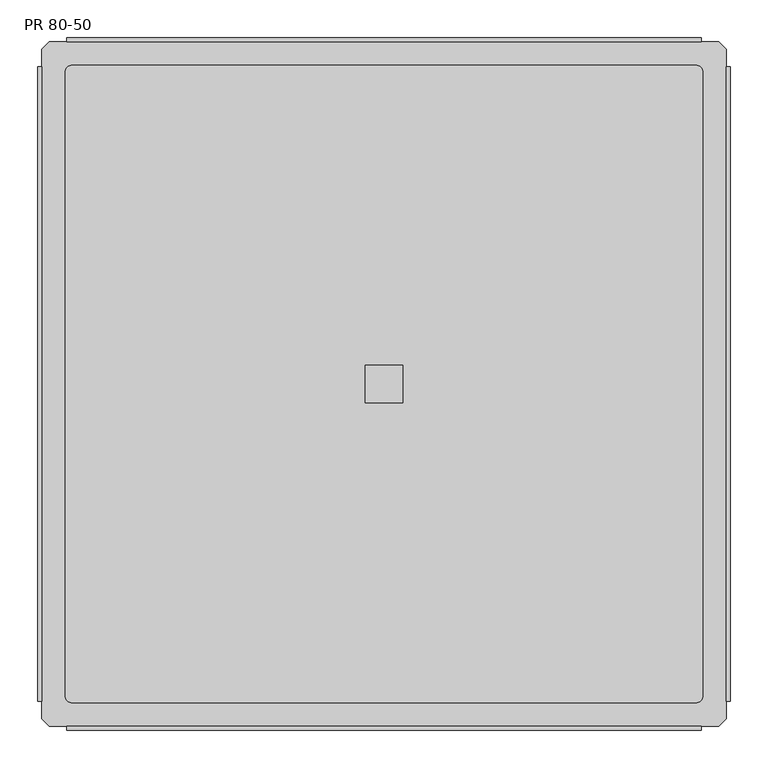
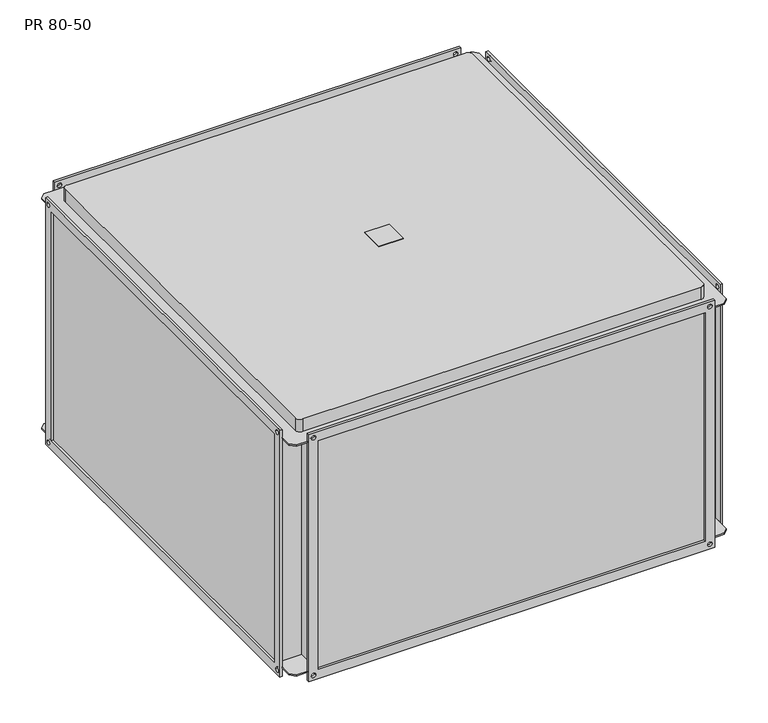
"""IFC4 building model written with IfcOpenShell, lengths in millimetres: proxy geometry, KORF_Рекуператор_Пластинчатый_PR : PR 80-50."""

from ifc_helpers import new_model, si_unit, point, frame, frame_2d, origin, place, context, project, spatial, polyline, circle_curve, trimmed, segment, composite_curve, outline, extrude, source, transform, mapped, element, save
from ifc_brep_helpers import plane_surface, cylinder_surface, revolved_surface, advanced_brep


def pr_80_50_171bdde4(model_context):
    return source(origin(), model_context, "Body", "SolidModel", [
        extrude(outline(polyline([(433.0, -25.0), (433.0, 25.0), (483.0, 25.0), (483.0, -25.0), (433.0, -25.0)])), frame((0.0, 0.0, 280.0), z_axis=(0.0, 0.0, 1.0), x_axis=(1.0, 0.0, 0.0)), (0.0, 0.0, 1.0), 2.0),
        advanced_brep(
        [(858.0, -453.0, -250.0), (858.0, -453.0, 250.0), (58.0, -453.0, 250.0), (58.0, -453.0, -250.0), (858.0, 453.0, 250.0), (858.0, 453.0, -250.0), (58.0, 453.0, -250.0), (58.0, 453.0, 250.0), (15.0, 453.0, 253.0), (5.0, 443.0, 253.0), (5.0, -443.0, 253.0), (15.0, -453.0, 253.0), (38.0, -453.0, 253.0), (878.0, -453.0, 253.0), (901.0, -453.0, 253.0), (911.0, -443.0, 253.0), (911.0, 443.0, 253.0), (901.0, 453.0, 253.0), (878.0, 453.0, 253.0), (38.0, 453.0, 253.0), (46.0, 422.0, 253.0), (870.0, 422.0, 253.0), (880.0, 412.0, 253.0), (880.0, -412.0, 253.0), (870.0, -422.0, 253.0), (46.0, -422.0, 253.0), (36.0, -412.0, 253.0), (36.0, 412.0, 253.0), (55.0, -453.0, 250.0), (55.0, -403.0, 250.0), (55.0, -403.0, -250.0), (55.0, -453.0, -250.0), (55.0, 403.0, 250.0), (55.0, 453.0, 250.0), (55.0, 453.0, -250.0), (55.0, 403.0, -250.0), (5.0, 443.0, -253.0), (15.0, 453.0, -253.0), (38.0, 453.0, -253.0), (878.0, 453.0, -253.0), (901.0, 453.0, -253.0), (911.0, 443.0, -253.0), (911.0, -443.0, -253.0), (901.0, -453.0, -253.0), (878.0, -453.0, -253.0), (38.0, -453.0, -253.0), (15.0, -453.0, -253.0), (5.0, -443.0, -253.0), (861.0, -403.0, 250.0), (861.0, -453.0, 250.0), (861.0, -453.0, -250.0), (861.0, -403.0, -250.0), (861.0, 453.0, 250.0), (861.0, 403.0, 250.0), (861.0, 403.0, -250.0), (861.0, 453.0, -250.0), (911.0, 403.0, 250.0), (911.0, 443.0, 250.0), (911.0, -443.0, 250.0), (911.0, -403.0, 250.0), (911.0, -403.0, -250.0), (911.0, -443.0, -250.0), (911.0, 443.0, -250.0), (911.0, 403.0, -250.0), (5.0, 443.0, 250.0), (5.0, 403.0, 250.0), (5.0, 403.0, -250.0), (5.0, 443.0, -250.0), (5.0, -443.0, -250.0), (5.0, -403.0, -250.0), (5.0, -403.0, 250.0), (5.0, -443.0, 250.0), (878.0, 458.0, 270.0), (878.0, 458.0, -270.0), (38.0, 458.0, -270.0), (38.0, 458.0, 270.0), (858.0, 458.0, 250.0), (58.0, 458.0, 250.0), (58.0, 458.0, -250.0), (858.0, 458.0, -250.0), (43.5, 458.0, 260.0), (52.5, 458.0, 260.0), (863.5, 458.0, 260.0), (872.5, 458.0, 260.0), (863.5, 458.0, -260.0), (872.5, 458.0, -260.0), (43.5, 458.0, -260.0), (52.5, 458.0, -260.0), (878.0, 453.0, 270.0), (38.0, 453.0, 270.0), (43.5, 453.0, 260.0), (52.5, 453.0, 260.0), (863.5, 453.0, 260.0), (872.5, 453.0, 260.0), (38.0, 453.0, -270.0), (878.0, 453.0, -270.0), (863.5, 453.0, -260.0), (872.5, 453.0, -260.0), (43.5, 453.0, -260.0), (52.5, 453.0, -260.0), (38.0, 453.0, 250.0), (38.0, 453.0, -250.0), (878.0, 453.0, 250.0), (878.0, 453.0, -250.0), (878.0, -458.0, 270.0), (38.0, -458.0, 270.0), (38.0, -458.0, -270.0), (878.0, -458.0, -270.0), (858.0, -458.0, 250.0), (858.0, -458.0, -250.0), (58.0, -458.0, -250.0), (58.0, -458.0, 250.0), (863.5, -458.0, 260.0), (872.5, -458.0, 260.0), (863.5, -458.0, -260.0), (872.5, -458.0, -260.0), (43.5, -458.0, 260.0), (52.5, -458.0, 260.0), (43.5, -458.0, -260.0), (52.5, -458.0, -260.0), (878.0, -453.0, -270.0), (38.0, -453.0, -270.0), (863.5, -453.0, -260.0), (872.5, -453.0, -260.0), (43.5, -453.0, -260.0), (52.5, -453.0, -260.0), (38.0, -453.0, 270.0), (878.0, -453.0, 270.0), (863.5, -453.0, 260.0), (872.5, -453.0, 260.0), (43.5, -453.0, 260.0), (52.5, -453.0, 260.0), (38.0, -453.0, 250.0), (38.0, -453.0, -250.0), (878.0, -453.0, 250.0), (878.0, -453.0, -250.0), (901.0, -453.0, 250.0), (15.0, 453.0, 250.0), (901.0, 453.0, 250.0), (15.0, -453.0, 250.0), (901.0, 453.0, -250.0), (15.0, -453.0, -250.0), (15.0, 453.0, -250.0), (901.0, -453.0, -250.0), (870.0, 422.0, 280.0), (46.0, 422.0, 280.0), (36.0, 412.0, 280.0), (36.0, -412.0, 280.0), (46.0, -422.0, 280.0), (870.0, -422.0, 280.0), (880.0, -412.0, 280.0), (880.0, 412.0, 280.0)],
        [
            (0, 1),
            (1, 2),
            (2, 3),
            (3, 0),
            (4, 5),
            (5, 6),
            (6, 7),
            (7, 4),
            (8, 9),
            (9, 10),
            (10, 11),
            (11, 12),
            (12, 13),
            (13, 14),
            (14, 15),
            (15, 16),
            (16, 17),
            (17, 18),
            (18, 19),
            (19, 8),
            (20, 21),
            (21, 22, circle_curve(frame((870.0, 412.0, 253.0), z_axis=(0.0, 0.0, -1.0), x_axis=(1.0, 0.0, 0.0)), 10.0)),
            (22, 23),
            (23, 24, circle_curve(frame((870.0, -412.0, 253.0), z_axis=(0.0, 0.0, -1.0), x_axis=(1.0, 0.0, 0.0)), 10.0)),
            (24, 25),
            (25, 26, circle_curve(frame((46.0, -412.0, 253.0), z_axis=(0.0, 0.0, -1.0), x_axis=(1.0, 0.0, 0.0)), 10.0)),
            (26, 27),
            (27, 20, circle_curve(frame((46.0, 412.0, 253.0), z_axis=(0.0, 0.0, -1.0), x_axis=(1.0, 0.0, 0.0)), 10.0)),
            (28, 29),
            (29, 30),
            (30, 31),
            (31, 28),
            (32, 33),
            (33, 34),
            (34, 35),
            (35, 32),
            (36, 37),
            (37, 38),
            (38, 39),
            (39, 40),
            (40, 41),
            (41, 42),
            (42, 43),
            (43, 44),
            (44, 45),
            (45, 46),
            (46, 47),
            (47, 36),
            (48, 49),
            (49, 50),
            (50, 51),
            (51, 48),
            (52, 53),
            (53, 54),
            (54, 55),
            (55, 52),
            (56, 57),
            (57, 16),
            (15, 58),
            (58, 59),
            (59, 60),
            (60, 61),
            (61, 42),
            (41, 62),
            (62, 63),
            (63, 56),
            (64, 65),
            (65, 66),
            (66, 67),
            (67, 36),
            (47, 68),
            (68, 69),
            (69, 70),
            (70, 71),
            (71, 10),
            (9, 64),
            (29, 70),
            (69, 30),
            (59, 48),
            (51, 60),
            (65, 32),
            (35, 66),
            (53, 56),
            (63, 54),
            (72, 73),
            (73, 74),
            (74, 75),
            (75, 72),
            (76, 77),
            (77, 78),
            (78, 79),
            (79, 76),
            (80, 81, circle_curve(frame((48.0, 458.0, 260.0), z_axis=(0.0, -1.0, 0.0), x_axis=(1.0, 0.0, 0.0)), 4.5)),
            (81, 80, circle_curve(frame((48.0, 458.0, 260.0), z_axis=(0.0, -1.0, 0.0), x_axis=(1.0, 0.0, 0.0)), 4.5)),
            (82, 83, circle_curve(frame((868.0, 458.0, 260.0), z_axis=(0.0, -1.0, 0.0), x_axis=(1.0, 0.0, 0.0)), 4.5)),
            (83, 82, circle_curve(frame((868.0, 458.0, 260.0), z_axis=(0.0, -1.0, 0.0), x_axis=(1.0, 0.0, 0.0)), 4.5)),
            (84, 85, circle_curve(frame((868.0, 458.0, -260.0), z_axis=(0.0, -1.0, 0.0), x_axis=(1.0, 0.0, 0.0)), 4.5)),
            (85, 84, circle_curve(frame((868.0, 458.0, -260.0), z_axis=(0.0, -1.0, 0.0), x_axis=(1.0, 0.0, 0.0)), 4.5)),
            (86, 87, circle_curve(frame((48.0, 458.0, -260.0), z_axis=(0.0, -1.0, 0.0), x_axis=(1.0, 0.0, 0.0)), 4.5)),
            (87, 86, circle_curve(frame((48.0, 458.0, -260.0), z_axis=(0.0, -1.0, 0.0), x_axis=(1.0, 0.0, 0.0)), 4.5)),
            (88, 89),
            (89, 19),
            (18, 88),
            (90, 91, circle_curve(frame((48.0, 453.0, 260.0), z_axis=(0.0, 1.0, 0.0), x_axis=(1.0, 0.0, 0.0)), 4.5)),
            (91, 90, circle_curve(frame((48.0, 453.0, 260.0), z_axis=(0.0, 1.0, 0.0), x_axis=(1.0, 0.0, 0.0)), 4.5)),
            (92, 93, circle_curve(frame((868.0, 453.0, 260.0), z_axis=(0.0, 1.0, 0.0), x_axis=(1.0, 0.0, 0.0)), 4.5)),
            (93, 92, circle_curve(frame((868.0, 453.0, 260.0), z_axis=(0.0, 1.0, 0.0), x_axis=(1.0, 0.0, 0.0)), 4.5)),
            (94, 95),
            (95, 39),
            (38, 94),
            (96, 97, circle_curve(frame((868.0, 453.0, -260.0), z_axis=(0.0, 1.0, 0.0), x_axis=(1.0, 0.0, 0.0)), 4.5)),
            (97, 96, circle_curve(frame((868.0, 453.0, -260.0), z_axis=(0.0, 1.0, 0.0), x_axis=(1.0, 0.0, 0.0)), 4.5)),
            (98, 99, circle_curve(frame((48.0, 453.0, -260.0), z_axis=(0.0, 1.0, 0.0), x_axis=(1.0, 0.0, 0.0)), 4.5)),
            (99, 98, circle_curve(frame((48.0, 453.0, -260.0), z_axis=(0.0, 1.0, 0.0), x_axis=(1.0, 0.0, 0.0)), 4.5)),
            (33, 100),
            (100, 101),
            (101, 34),
            (102, 52),
            (55, 103),
            (103, 102),
            (75, 89),
            (88, 72),
            (74, 94),
            (38, 101),
            (100, 19),
            (73, 95),
            (18, 102),
            (103, 39),
            (79, 5),
            (4, 76),
            (78, 6),
            (77, 7),
            (104, 105),
            (105, 106),
            (106, 107),
            (107, 104),
            (108, 109),
            (109, 110),
            (110, 111),
            (111, 108),
            (112, 113, circle_curve(frame((868.0, -458.0, 260.0), z_axis=(0.0, 1.0, 0.0), x_axis=(1.0, 0.0, 0.0)), 4.5)),
            (113, 112, circle_curve(frame((868.0, -458.0, 260.0), z_axis=(0.0, 1.0, 0.0), x_axis=(1.0, 0.0, 0.0)), 4.5)),
            (114, 115, circle_curve(frame((868.0, -458.0, -260.0), z_axis=(0.0, 1.0, 0.0), x_axis=(1.0, 0.0, 0.0)), 4.5)),
            (115, 114, circle_curve(frame((868.0, -458.0, -260.0), z_axis=(0.0, 1.0, 0.0), x_axis=(1.0, 0.0, 0.0)), 4.5)),
            (116, 117, circle_curve(frame((48.0, -458.0, 260.0), z_axis=(0.0, 1.0, 0.0), x_axis=(1.0, 0.0, 0.0)), 4.5)),
            (117, 116, circle_curve(frame((48.0, -458.0, 260.0), z_axis=(0.0, 1.0, 0.0), x_axis=(1.0, 0.0, 0.0)), 4.5)),
            (118, 119, circle_curve(frame((48.0, -458.0, -260.0), z_axis=(0.0, 1.0, 0.0), x_axis=(1.0, 0.0, 0.0)), 4.5)),
            (119, 118, circle_curve(frame((48.0, -458.0, -260.0), z_axis=(0.0, 1.0, 0.0), x_axis=(1.0, 0.0, 0.0)), 4.5)),
            (120, 121),
            (121, 45),
            (44, 120),
            (122, 123, circle_curve(frame((868.0, -453.0, -260.0), z_axis=(0.0, -1.0, 0.0), x_axis=(1.0, 0.0, 0.0)), 4.5)),
            (123, 122, circle_curve(frame((868.0, -453.0, -260.0), z_axis=(0.0, -1.0, 0.0), x_axis=(1.0, 0.0, 0.0)), 4.5)),
            (124, 125, circle_curve(frame((48.0, -453.0, -260.0), z_axis=(0.0, -1.0, 0.0), x_axis=(1.0, 0.0, 0.0)), 4.5)),
            (125, 124, circle_curve(frame((48.0, -453.0, -260.0), z_axis=(0.0, -1.0, 0.0), x_axis=(1.0, 0.0, 0.0)), 4.5)),
            (126, 127),
            (127, 13),
            (12, 126),
            (128, 129, circle_curve(frame((868.0, -453.0, 260.0), z_axis=(0.0, -1.0, 0.0), x_axis=(1.0, 0.0, 0.0)), 4.5)),
            (129, 128, circle_curve(frame((868.0, -453.0, 260.0), z_axis=(0.0, -1.0, 0.0), x_axis=(1.0, 0.0, 0.0)), 4.5)),
            (130, 131, circle_curve(frame((48.0, -453.0, 260.0), z_axis=(0.0, -1.0, 0.0), x_axis=(1.0, 0.0, 0.0)), 4.5)),
            (131, 130, circle_curve(frame((48.0, -453.0, 260.0), z_axis=(0.0, -1.0, 0.0), x_axis=(1.0, 0.0, 0.0)), 4.5)),
            (132, 28),
            (31, 133),
            (133, 132),
            (49, 134),
            (134, 135),
            (135, 50),
            (104, 127),
            (126, 105),
            (12, 132),
            (133, 45),
            (121, 106),
            (120, 107),
            (44, 135),
            (134, 13),
            (108, 1),
            (0, 109),
            (3, 110),
            (2, 111),
            (81, 91),
            (90, 80),
            (83, 93),
            (92, 82),
            (85, 97),
            (96, 84),
            (87, 99),
            (98, 86),
            (112, 128),
            (129, 113),
            (114, 122),
            (123, 115),
            (116, 130),
            (131, 117),
            (118, 124),
            (125, 119),
            (58, 136),
            (136, 134),
            (64, 137),
            (137, 100),
            (138, 57),
            (102, 138),
            (139, 71),
            (132, 139),
            (137, 8),
            (138, 17),
            (139, 11),
            (136, 14),
            (62, 140),
            (140, 103),
            (68, 141),
            (141, 133),
            (142, 67),
            (101, 142),
            (143, 61),
            (135, 143),
            (37, 142),
            (40, 140),
            (46, 141),
            (43, 143),
            (144, 145),
            (145, 146, circle_curve(frame((46.0, 412.0, 280.0), z_axis=(0.0, 0.0, 1.0), x_axis=(1.0, 0.0, 0.0)), 10.0)),
            (146, 147),
            (147, 148, circle_curve(frame((46.0, -412.0, 280.0), z_axis=(0.0, 0.0, 1.0), x_axis=(1.0, 0.0, 0.0)), 10.0)),
            (148, 149),
            (149, 150, circle_curve(frame((870.0, -412.0, 280.0), z_axis=(0.0, 0.0, 1.0), x_axis=(1.0, 0.0, 0.0)), 10.0)),
            (150, 151),
            (151, 144, circle_curve(frame((870.0, 412.0, 280.0), z_axis=(0.0, 0.0, 1.0), x_axis=(1.0, 0.0, 0.0)), 10.0)),
            (144, 21),
            (20, 145),
            (27, 146),
            (26, 147),
            (25, 148),
            (24, 149),
            (23, 150),
            (22, 151),
        ],
        [
            plane_surface(frame((55.0, -453.0, 253.0), z_axis=(0.0, -1.0, 0.0), x_axis=(-1.0, 0.0, 0.0))),
            plane_surface(frame((55.0, 453.0, 253.0), z_axis=(0.0, 1.0, 0.0), x_axis=(1.0, 0.0, 0.0))),
            plane_surface(frame((861.0, -453.0, 253.0), z_axis=(0.0, 0.0, 1.0), x_axis=(0.0, 1.0, 0.0))),
            plane_surface(frame((55.0, -453.0, 253.0), z_axis=(-1.0, 0.0, 0.0), x_axis=(0.0, 1.0, 0.0))),
            plane_surface(frame((55.0, -453.0, -253.0), z_axis=(0.0, 0.0, -1.0), x_axis=(0.0, 1.0, 0.0))),
            plane_surface(frame((861.0, -453.0, -253.0), z_axis=(1.0, 0.0, 0.0), x_axis=(0.0, 1.0, 0.0))),
            plane_surface(frame((911.0, -403.0, 253.0), z_axis=(1.0, 0.0, 0.0), x_axis=(0.0, 0.0, -1.0))),
            plane_surface(frame((5.0, -403.0, 253.0), z_axis=(-1.0, 0.0, 0.0), x_axis=(0.0, 0.0, 1.0))),
            plane_surface(frame((911.0, -403.0, 253.0), z_axis=(0.0, -1.0, 0.0), x_axis=(-1.0, 0.0, 0.0))),
            plane_surface(frame((911.0, 403.0, -253.0), z_axis=(0.0, 1.0, 0.0), x_axis=(-1.0, 0.0, 0.0))),
            plane_surface(frame((38.0, 458.0, 270.0), z_axis=(0.0, 1.0, 0.0), x_axis=(1.0, 0.0, 0.0))),
            plane_surface(frame((38.0, 453.0, 270.0), z_axis=(0.0, -1.0, 0.0), x_axis=(-1.0, 0.0, 0.0))),
            plane_surface(frame((878.0, 453.0, 270.0), z_axis=(0.0, 0.0, 1.0), x_axis=(0.0, 1.0, 0.0))),
            plane_surface(frame((38.0, 453.0, 270.0), z_axis=(-1.0, 0.0, 0.0), x_axis=(0.0, 1.0, 0.0))),
            plane_surface(frame((38.0, 453.0, -270.0), z_axis=(0.0, 0.0, -1.0), x_axis=(0.0, 1.0, 0.0))),
            plane_surface(frame((878.0, 453.0, -270.0), z_axis=(1.0, 0.0, 0.0), x_axis=(0.0, 1.0, 0.0))),
            plane_surface(frame((858.0, 453.0, 250.0), z_axis=(-1.0, 0.0, 0.0), x_axis=(0.0, 1.0, 0.0))),
            plane_surface(frame((858.0, 453.0, -250.0), z_axis=(0.0, 0.0, 1.0), x_axis=(0.0, 1.0, 0.0))),
            plane_surface(frame((58.0, 453.0, -250.0), z_axis=(1.0, 0.0, 0.0), x_axis=(0.0, 1.0, 0.0))),
            plane_surface(frame((58.0, 453.0, 250.0), z_axis=(0.0, 0.0, -1.0), x_axis=(0.0, 1.0, 0.0))),
            plane_surface(frame((38.0, -458.0, 270.0), z_axis=(0.0, -1.0, 0.0), x_axis=(-1.0, 0.0, 0.0))),
            plane_surface(frame((38.0, -453.0, 270.0), z_axis=(0.0, 1.0, 0.0), x_axis=(1.0, 0.0, 0.0))),
            plane_surface(frame((878.0, -458.0, 270.0), z_axis=(0.0, 0.0, 1.0), x_axis=(0.0, 1.0, 0.0))),
            plane_surface(frame((38.0, -458.0, 270.0), z_axis=(-1.0, 0.0, 0.0), x_axis=(0.0, 1.0, 0.0))),
            plane_surface(frame((38.0, -458.0, -270.0), z_axis=(0.0, 0.0, -1.0), x_axis=(0.0, 1.0, 0.0))),
            plane_surface(frame((878.0, -458.0, -270.0), z_axis=(1.0, 0.0, 0.0), x_axis=(0.0, 1.0, 0.0))),
            plane_surface(frame((858.0, -458.0, 250.0), z_axis=(-1.0, 0.0, 0.0), x_axis=(0.0, 1.0, 0.0))),
            plane_surface(frame((858.0, -458.0, -250.0), z_axis=(0.0, 0.0, 1.0), x_axis=(0.0, 1.0, 0.0))),
            plane_surface(frame((58.0, -458.0, -250.0), z_axis=(1.0, 0.0, 0.0), x_axis=(0.0, 1.0, 0.0))),
            plane_surface(frame((58.0, -458.0, 250.0), z_axis=(0.0, 0.0, -1.0), x_axis=(0.0, 1.0, 0.0))),
            revolved_surface(polyline([(52.5, 458.0, 260.0), (52.5, 453.0, 260.0)]), (48.0, 0.0, 260.0), (0.0, 1.0, 0.0)),
            revolved_surface(polyline([(872.5, 458.0, 260.0), (872.5, 453.0, 260.0)]), (868.0, 0.0, 260.0), (0.0, 1.0, 0.0)),
            revolved_surface(polyline([(872.5, 458.0, -260.0), (872.5, 453.0, -260.0)]), (868.0, 0.0, -260.0), (0.0, 1.0, 0.0)),
            revolved_surface(polyline([(52.5, 458.0, -260.0), (52.5, 453.0, -260.0)]), (48.0, 0.0, -260.0), (0.0, 1.0, 0.0)),
            revolved_surface(polyline([(872.5, -453.0, 260.0), (872.5, -458.0, 260.0)]), (868.0, 0.0, 260.0), (0.0, 1.0, 0.0)),
            revolved_surface(polyline([(872.5, -453.0, -260.0), (872.5, -458.0, -260.0)]), (868.0, 0.0, -260.0), (0.0, 1.0, 0.0)),
            revolved_surface(polyline([(52.5, -453.0, 260.0), (52.5, -458.0, 260.0)]), (48.0, 0.0, 260.0), (0.0, 1.0, 0.0)),
            revolved_surface(polyline([(52.5, -453.0, -260.0), (52.5, -458.0, -260.0)]), (48.0, 0.0, -260.0), (0.0, 1.0, 0.0)),
            plane_surface(frame((55.0, 403.0, 250.0), z_axis=(0.0, 0.0, -1.0), x_axis=(0.0, -1.0, 0.0))),
            plane_surface(frame((55.0, 453.0, 253.0), z_axis=(0.0, 1.0, 0.0), x_axis=(0.0, 0.0, -1.0))),
            plane_surface(frame((15.0, 453.0, 253.0), z_axis=(-0.707106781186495, 0.7071067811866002, 0.0), x_axis=(0.0, 0.0, -1.0))),
            plane_surface(frame((911.0, 443.0, 253.0), z_axis=(0.7071067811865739, 0.7071067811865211, 0.0), x_axis=(0.0, 0.0, -1.0))),
            plane_surface(frame((901.0, 453.0, 253.0), z_axis=(0.0, 1.0, 0.0), x_axis=(0.0, 0.0, -1.0))),
            plane_surface(frame((5.0, -443.0, 253.0), z_axis=(-0.7071067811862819, -0.7071067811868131, 0.0), x_axis=(0.0, 0.0, -1.0))),
            plane_surface(frame((15.0, -453.0, 253.0), z_axis=(0.0, -1.0, 0.0), x_axis=(0.0, 0.0, -1.0))),
            plane_surface(frame((861.0, -453.0, 253.0), z_axis=(0.0, -1.0, 0.0), x_axis=(0.0, 0.0, -1.0))),
            plane_surface(frame((901.0, -453.0, 253.0), z_axis=(0.7071067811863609, -0.7071067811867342, 0.0), x_axis=(0.0, 0.0, -1.0))),
            plane_surface(frame((55.0, 403.0, -250.0), z_axis=(0.0, 0.0, 1.0), x_axis=(0.0, 1.0, 0.0))),
            plane_surface(frame((55.0, 453.0, -250.0), z_axis=(0.0, 1.0, 0.0), x_axis=(0.0, 0.0, -1.0))),
            plane_surface(frame((15.0, 453.0, -250.0), z_axis=(-0.7071067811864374, 0.7071067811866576, 0.0), x_axis=(0.0, 0.0, -1.0))),
            plane_surface(frame((911.0, 443.0, -250.0), z_axis=(0.7071067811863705, 0.7071067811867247, 0.0), x_axis=(0.0, 0.0, -1.0))),
            plane_surface(frame((901.0, 453.0, -250.0), z_axis=(0.0, 1.0, 0.0), x_axis=(0.0, 0.0, -1.0))),
            plane_surface(frame((5.0, -443.0, -250.0), z_axis=(-0.707106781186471, -0.7071067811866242, 0.0), x_axis=(0.0, 0.0, -1.0))),
            plane_surface(frame((15.0, -453.0, -250.0), z_axis=(0.0, -1.0, 0.0), x_axis=(0.0, 0.0, -1.0))),
            plane_surface(frame((861.0, -453.0, -250.0), z_axis=(0.0, -1.0, 0.0), x_axis=(0.0, 0.0, -1.0))),
            plane_surface(frame((901.0, -453.0, -250.0), z_axis=(0.7071067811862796, -0.7071067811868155, 0.0), x_axis=(0.0, 0.0, -1.0))),
            plane_surface(frame((46.0, 422.0, 280.0), z_axis=(0.0, 0.0, 1.0), x_axis=(-1.0, 0.0, 0.0))),
            plane_surface(frame((870.0, 422.0, 280.0), z_axis=(0.0, 1.0, 0.0), x_axis=(0.0, 0.0, -1.0))),
            cylinder_surface(frame((46.0, 412.0, 253.0), z_axis=(0.0, 0.0, 1.0), x_axis=(1.0, 0.0, 0.0)), 10.0),
            plane_surface(frame((36.0, 412.0, 280.0), z_axis=(-1.0, 0.0, 0.0), x_axis=(0.0, 0.0, -1.0))),
            cylinder_surface(frame((46.0, -412.0, 253.0), z_axis=(0.0, 0.0, 1.0), x_axis=(1.0, 0.0, 0.0)), 10.0),
            plane_surface(frame((46.0, -422.0, 280.0), z_axis=(0.0, -1.0, 0.0), x_axis=(0.0, 0.0, -1.0))),
            cylinder_surface(frame((870.0, -412.0, 253.0), z_axis=(0.0, 0.0, 1.0), x_axis=(1.0, 0.0, 0.0)), 10.0),
            plane_surface(frame((880.0, -412.0, 280.0), z_axis=(1.0, 0.0, 0.0), x_axis=(0.0, 0.0, -1.0))),
            cylinder_surface(frame((870.0, 412.0, 253.0), z_axis=(0.0, 0.0, 1.0), x_axis=(1.0, 0.0, 0.0)), 10.0),
        ],
        [
            (0, [[1, 2, 3, 4]]),
            (1, [[5, 6, 7, 8]]),
            (2, [[9, 10, 11, 12, 13, 14, 15, 16, 17, 18, 19, 20], [21, 22, 23, 24, 25, 26, 27, 28]]),
            (3, [[29, 30, 31, 32]]),
            (3, [[33, 34, 35, 36]]),
            (4, [[37, 38, 39, 40, 41, 42, 43, 44, 45, 46, 47, 48]]),
            (5, [[49, 50, 51, 52]]),
            (5, [[53, 54, 55, 56]]),
            (6, [[57, 58, -16, 59, 60, 61, 62, 63, -42, 64, 65, 66]]),
            (7, [[67, 68, 69, 70, -48, 71, 72, 73, 74, 75, -10, 76]]),
            (8, [[77, -73, 78, -30]]),
            (8, [[79, -52, 80, -61]]),
            (9, [[81, -36, 82, -68]]),
            (9, [[83, -66, 84, -54]]),
            (10, [[85, 86, 87, 88], [89, 90, 91, 92], [93, 94], [95, 96], [97, 98], [99, 100]]),
            (11, [[101, 102, -19, 103], [104, 105], [106, 107]]),
            (11, [[108, 109, -39, 110], [111, 112], [113, 114]]),
            (11, [[115, 116, 117, -34]]),
            (11, [[118, -56, 119, 120]]),
            (12, [[-88, 121, -101, 122]]),
            (13, [[-87, 123, -110, 124, -116, 125, -102, -121]]),
            (14, [[-86, 126, -108, -123]]),
            (15, [[-85, -122, -103, 127, -120, 128, -109, -126]]),
            (16, [[-92, 129, -5, 130]]),
            (17, [[-91, 131, -6, -129]]),
            (18, [[-90, 132, -7, -131]]),
            (19, [[-89, -130, -8, -132]]),
            (20, [[133, 134, 135, 136], [137, 138, 139, 140], [141, 142], [143, 144], [145, 146], [147, 148]]),
            (21, [[149, 150, -45, 151], [152, 153], [154, 155]]),
            (21, [[156, 157, -13, 158], [159, 160], [161, 162]]),
            (21, [[163, -32, 164, 165]]),
            (21, [[166, 167, 168, -50]]),
            (22, [[-133, 169, -156, 170]]),
            (23, [[-134, -170, -158, 171, -165, 172, -150, 173]]),
            (24, [[-135, -173, -149, 174]]),
            (25, [[-136, -174, -151, 175, -167, 176, -157, -169]]),
            (26, [[-137, 177, -1, 178]]),
            (27, [[-138, -178, -4, 179]]),
            (28, [[-139, -179, -3, 180]]),
            (29, [[-140, -180, -2, -177]]),
            (30, [[-94, 181, -104, 182]]),
            (30, [[-93, -182, -105, -181]]),
            (31, [[-96, 183, -106, 184]]),
            (31, [[-95, -184, -107, -183]]),
            (32, [[-98, 185, -111, 186]]),
            (32, [[-97, -186, -112, -185]]),
            (33, [[-100, 187, -113, 188]]),
            (33, [[-99, -188, -114, -187]]),
            (34, [[-141, 189, -160, 190]]),
            (34, [[-142, -190, -159, -189]]),
            (35, [[-143, 191, -153, 192]]),
            (35, [[-144, -192, -152, -191]]),
            (36, [[-145, 193, -162, 194]]),
            (36, [[-146, -194, -161, -193]]),
            (37, [[-147, 195, -155, 196]]),
            (37, [[-148, -196, -154, -195]]),
            (38, [[-60, 197, 198, -166, -49, -79]]),
            (38, [[-67, 199, 200, -115, -33, -81]]),
            (38, [[201, -57, -83, -53, -118, 202]]),
            (38, [[203, -74, -77, -29, -163, 204]]),
            (39, [[205, -20, -125, -200]]),
            (40, [[-199, -76, -9, -205]]),
            (41, [[-201, 206, -17, -58]]),
            (42, [[-206, -202, -127, -18]]),
            (43, [[-203, 207, -11, -75]]),
            (44, [[-207, -204, -171, -12]]),
            (45, [[208, -14, -176, -198]]),
            (46, [[-197, -59, -15, -208]]),
            (47, [[-65, 209, 210, -119, -55, -84]]),
            (47, [[-72, 211, 212, -164, -31, -78]]),
            (47, [[213, -69, -82, -35, -117, 214]]),
            (47, [[215, -62, -80, -51, -168, 216]]),
            (48, [[217, -214, -124, -38]]),
            (49, [[-213, -217, -37, -70]]),
            (50, [[-209, -64, -41, 218]]),
            (51, [[-218, -40, -128, -210]]),
            (52, [[-211, -71, -47, 219]]),
            (53, [[-219, -46, -172, -212]]),
            (54, [[220, -216, -175, -44]]),
            (55, [[-215, -220, -43, -63]]),
            (56, [[221, 222, 223, 224, 225, 226, 227, 228]]),
            (57, [[-221, 229, -21, 230]]),
            (58, [[-222, -230, -28, 231]]),
            (59, [[-223, -231, -27, 232]]),
            (60, [[-224, -232, -26, 233]]),
            (61, [[-225, -233, -25, 234]]),
            (62, [[-226, -234, -24, 235]]),
            (63, [[-227, -235, -23, 236]]),
            (64, [[-228, -236, -22, -229]]),
        ],
    ),
        extrude(outline(polyline([(-420.0, 270.0), (420.0, 270.0), (420.0, -270.0), (-420.0, -270.0), (-420.0, 270.0)]), holes=[polyline([(-400.0, 250.0), (-400.0, -250.0), (400.0, -250.0), (400.0, 250.0), (-400.0, 250.0)]), composite_curve([segment(trimmed(circle_curve(frame_2d((410.0, 260.0)), 4.5), [point((405.5, 260.0))], [point((414.5, 260.0))], True, "CARTESIAN"), True, "CONTINUOUS"), segment(trimmed(circle_curve(frame_2d((410.0, 260.0)), 4.5), [point((414.5, 260.0))], [point((405.5, 260.0))], True, "CARTESIAN"), True, "CONTINUOUS")], self_intersect=False), composite_curve([segment(trimmed(circle_curve(frame_2d((-410.0, 260.0)), 4.5), [point((-414.5, 260.0))], [point((-405.5, 260.0))], True, "CARTESIAN"), True, "CONTINUOUS"), segment(trimmed(circle_curve(frame_2d((-410.0, 260.0)), 4.5), [point((-405.5, 260.0))], [point((-414.5, 260.0))], True, "CARTESIAN"), True, "CONTINUOUS")], self_intersect=False), composite_curve([segment(trimmed(circle_curve(frame_2d((-410.0, -260.0)), 4.5), [point((-414.5, -260.0))], [point((-405.5, -260.0))], True, "CARTESIAN"), True, "CONTINUOUS"), segment(trimmed(circle_curve(frame_2d((-410.0, -260.0)), 4.5), [point((-405.5, -260.0))], [point((-414.5, -260.0))], True, "CARTESIAN"), True, "CONTINUOUS")], self_intersect=False), composite_curve([segment(trimmed(circle_curve(frame_2d((410.0, -260.0)), 4.5), [point((405.5, -260.0))], [point((414.5, -260.0))], True, "CARTESIAN"), True, "CONTINUOUS"), segment(trimmed(circle_curve(frame_2d((410.0, -260.0)), 4.5), [point((414.5, -260.0))], [point((405.5, -260.0))], True, "CARTESIAN"), True, "CONTINUOUS")], self_intersect=False)]), frame((911.0, 0.0, 0.0), z_axis=(1.0, 0.0, 0.0), x_axis=(0.0, 1.0, 0.0)), (0.0, 0.0, 1.0), 5.0),
        advanced_brep(
        [(0.0, -420.0, 270.0), (0.0, 420.0, 270.0), (0.0, 420.0, -270.0), (0.0, -420.0, -270.0), (0.0, -400.0, 250.0), (0.0, -400.0, -250.0), (0.0, 400.0, -250.0), (0.0, 400.0, 250.0), (0.0, 405.5, 260.0), (0.0, 414.5, 260.0), (0.0, -414.5, 260.0), (0.0, -405.5, 260.0), (0.0, -414.5, -260.0), (0.0, -405.5, -260.0), (0.0, 405.5, -260.0), (0.0, 414.5, -260.0), (5.0, -420.0, 270.0), (5.0, -420.0, -270.0), (5.0, 420.0, -270.0), (5.0, 420.0, 270.0), (5.0, 414.5, 260.0), (5.0, 405.5, 260.0), (5.0, -405.5, 260.0), (5.0, -414.5, 260.0), (5.0, -405.5, -260.0), (5.0, -414.5, -260.0), (5.0, 414.5, -260.0), (5.0, 405.5, -260.0), (5.0, -400.0, -250.0), (5.0, -400.0, 250.0), (5.0, 400.0, 250.0), (5.0, 400.0, -250.0), (5.0, 400.0, 250.0), (5.0, -400.0, 250.0), (5.0, 400.0, -250.0), (5.0, -400.0, -250.0), (911.0, -400.0, 250.0), (911.0, -400.0, -250.0), (911.0, 400.0, 250.0), (911.0, 400.0, -250.0)],
        [
            (0, 1),
            (1, 2),
            (2, 3),
            (3, 0),
            (4, 5),
            (5, 6),
            (6, 7),
            (7, 4),
            (8, 9, circle_curve(frame((0.0, 410.0, 260.0), z_axis=(1.0, 0.0, 0.0), x_axis=(0.0, 1.0, 0.0)), 4.5)),
            (9, 8, circle_curve(frame((0.0, 410.0, 260.0), z_axis=(1.0, 0.0, 0.0), x_axis=(0.0, 1.0, 0.0)), 4.5)),
            (10, 11, circle_curve(frame((0.0, -410.0, 260.0), z_axis=(1.0, 0.0, 0.0), x_axis=(0.0, 1.0, 0.0)), 4.5)),
            (11, 10, circle_curve(frame((0.0, -410.0, 260.0), z_axis=(1.0, 0.0, 0.0), x_axis=(0.0, 1.0, 0.0)), 4.5)),
            (12, 13, circle_curve(frame((0.0, -410.0, -260.0), z_axis=(1.0, 0.0, 0.0), x_axis=(0.0, 1.0, 0.0)), 4.5)),
            (13, 12, circle_curve(frame((0.0, -410.0, -260.0), z_axis=(1.0, 0.0, 0.0), x_axis=(0.0, 1.0, 0.0)), 4.5)),
            (14, 15, circle_curve(frame((0.0, 410.0, -260.0), z_axis=(1.0, 0.0, 0.0), x_axis=(0.0, 1.0, 0.0)), 4.5)),
            (15, 14, circle_curve(frame((0.0, 410.0, -260.0), z_axis=(1.0, 0.0, 0.0), x_axis=(0.0, 1.0, 0.0)), 4.5)),
            (16, 17),
            (17, 18),
            (18, 19),
            (19, 16),
            (20, 21, circle_curve(frame((5.0, 410.0, 260.0), z_axis=(-1.0, 0.0, 0.0), x_axis=(0.0, 1.0, 0.0)), 4.5)),
            (21, 20, circle_curve(frame((5.0, 410.0, 260.0), z_axis=(-1.0, 0.0, 0.0), x_axis=(0.0, 1.0, 0.0)), 4.5)),
            (22, 23, circle_curve(frame((5.0, -410.0, 260.0), z_axis=(-1.0, 0.0, 0.0), x_axis=(0.0, 1.0, 0.0)), 4.5)),
            (23, 22, circle_curve(frame((5.0, -410.0, 260.0), z_axis=(-1.0, 0.0, 0.0), x_axis=(0.0, 1.0, 0.0)), 4.5)),
            (24, 25, circle_curve(frame((5.0, -410.0, -260.0), z_axis=(-1.0, 0.0, 0.0), x_axis=(0.0, 1.0, 0.0)), 4.5)),
            (25, 24, circle_curve(frame((5.0, -410.0, -260.0), z_axis=(-1.0, 0.0, 0.0), x_axis=(0.0, 1.0, 0.0)), 4.5)),
            (26, 27, circle_curve(frame((5.0, 410.0, -260.0), z_axis=(-1.0, 0.0, 0.0), x_axis=(0.0, 1.0, 0.0)), 4.5)),
            (27, 26, circle_curve(frame((5.0, 410.0, -260.0), z_axis=(-1.0, 0.0, 0.0), x_axis=(0.0, 1.0, 0.0)), 4.5)),
            (28, 29),
            (29, 30),
            (30, 31),
            (31, 28),
            (3, 17),
            (16, 0),
            (2, 18),
            (1, 19),
            (7, 32),
            (32, 33),
            (33, 4),
            (6, 34),
            (34, 32),
            (5, 35),
            (35, 34),
            (33, 35),
            (20, 9),
            (8, 21),
            (22, 11),
            (10, 23),
            (24, 13),
            (12, 25),
            (26, 15),
            (14, 27),
            (36, 29),
            (28, 37),
            (37, 36),
            (38, 39),
            (39, 31),
            (30, 38),
            (36, 38),
            (39, 37),
        ],
        [
            plane_surface(frame((0.0, -420.0, 270.0), z_axis=(-1.0, 0.0, 0.0), x_axis=(0.0, 0.0, 1.0))),
            plane_surface(frame((5.0, -420.0, 270.0), z_axis=(1.0, 0.0, 0.0), x_axis=(0.0, 0.0, -1.0))),
            plane_surface(frame((5.0, -420.0, 270.0), z_axis=(0.0, -1.0, 0.0), x_axis=(-1.0, 0.0, 0.0))),
            plane_surface(frame((5.0, -420.0, -270.0), z_axis=(0.0, 0.0, -1.0), x_axis=(-1.0, 0.0, 0.0))),
            plane_surface(frame((5.0, 420.0, -270.0), z_axis=(0.0, 1.0, 0.0), x_axis=(-1.0, 0.0, 0.0))),
            plane_surface(frame((5.0, 420.0, 270.0), z_axis=(0.0, 0.0, 1.0), x_axis=(-1.0, 0.0, 0.0))),
            plane_surface(frame((5.0, -400.0, 250.0), z_axis=(0.0, 0.0, -1.0), x_axis=(-1.0, 0.0, 0.0))),
            plane_surface(frame((5.0, 400.0, 250.0), z_axis=(0.0, -1.0, 0.0), x_axis=(-1.0, 0.0, 0.0))),
            plane_surface(frame((5.0, 400.0, -250.0), z_axis=(0.0, 0.0, 1.0), x_axis=(-1.0, 0.0, 0.0))),
            plane_surface(frame((5.0, -400.0, -250.0), z_axis=(0.0, 1.0, 0.0), x_axis=(-1.0, 0.0, 0.0))),
            revolved_surface(polyline([(5.0, 414.5, 260.0), (0.0, 414.5, 260.0)]), (0.0, 410.0, 260.0), (1.0, 0.0, 0.0)),
            revolved_surface(polyline([(5.0, -405.5, 260.0), (0.0, -405.5, 260.0)]), (0.0, -410.0, 260.0), (1.0, 0.0, 0.0)),
            revolved_surface(polyline([(5.0, -405.5, -260.0), (0.0, -405.5, -260.0)]), (0.0, -410.0, -260.0), (1.0, 0.0, 0.0)),
            revolved_surface(polyline([(5.0, 414.5, -260.0), (0.0, 414.5, -260.0)]), (0.0, 410.0, -260.0), (1.0, 0.0, 0.0)),
            plane_surface(frame((5.0, -400.0, 250.0), z_axis=(0.0, -1.0, 0.0), x_axis=(-1.0, 0.0, 0.0))),
            plane_surface(frame((5.0, 400.0, 250.0), z_axis=(0.0, 1.0, 0.0), x_axis=(1.0, 0.0, 0.0))),
            plane_surface(frame((911.0, -400.0, 250.0), z_axis=(0.0, 0.0, 1.0), x_axis=(0.0, 1.0, 0.0))),
            plane_surface(frame((5.0, -400.0, 250.0), z_axis=(-1.0, 0.0, 0.0), x_axis=(0.0, 1.0, 0.0))),
            plane_surface(frame((5.0, -400.0, -250.0), z_axis=(0.0, 0.0, -1.0), x_axis=(0.0, 1.0, 0.0))),
            plane_surface(frame((911.0, -400.0, -250.0), z_axis=(1.0, 0.0, 0.0), x_axis=(0.0, 1.0, 0.0))),
        ],
        [
            (0, [[1, 2, 3, 4], [5, 6, 7, 8], [9, 10], [11, 12], [13, 14], [15, 16]]),
            (1, [[17, 18, 19, 20], [21, 22], [23, 24], [25, 26], [27, 28], [29, 30, 31, 32]]),
            (2, [[-4, 33, -17, 34]]),
            (3, [[-3, 35, -18, -33]]),
            (4, [[-2, 36, -19, -35]]),
            (5, [[-1, -34, -20, -36]]),
            (6, [[-8, 37, 38, 39]]),
            (7, [[-7, 40, 41, -37]]),
            (8, [[-6, 42, 43, -40]]),
            (9, [[-5, -39, 44, -42]]),
            (10, [[45, -9, 46, -21]]),
            (10, [[-45, -22, -46, -10]]),
            (11, [[47, -11, 48, -23]]),
            (11, [[-47, -24, -48, -12]]),
            (12, [[49, -13, 50, -25]]),
            (12, [[-49, -26, -50, -14]]),
            (13, [[51, -15, 52, -27]]),
            (13, [[-51, -28, -52, -16]]),
            (14, [[53, -29, 54, 55]]),
            (15, [[56, 57, -31, 58]]),
            (16, [[-53, 59, -58, -30]]),
            (17, [[-38, -41, -43, -44]]),
            (18, [[-54, -32, -57, 60]]),
            (19, [[-55, -60, -56, -59]]),
        ],
    ),
    ])


if __name__ == "__main__":
    model = new_model("IFC4")
    model_context = context("Model", 3, world=origin())
    ifc_project = project(units=[si_unit("LENGTHUNIT", "METRE", prefix="MILLI")], contexts=[model_context])
    site = spatial("IfcSite", under=ifc_project)
    building = spatial("IfcBuilding", under=site)
    placement = place(None, origin())
    pr_80_50_shape = pr_80_50_171bdde4(model_context)
    element("IfcBuildingElementProxy", 1, Name="KORF_Рекуператор_Пластинчатый_PR : PR 80-50", ObjectType="KORF_Рекуператор_Пластинчатый_PR : PR 80-50", at=placement, inside=building, context=model_context, shape_type="MappedRepresentation", body=[
        mapped(pr_80_50_shape, transform((0.0, 0.0, 0.0), x_axis=(1.0, 0.0, 0.0), y_axis=(0.0, 1.0, 0.0), z_axis=(0.0, 0.0, 1.0))),
    ])
    save(model, "model.ifc")
